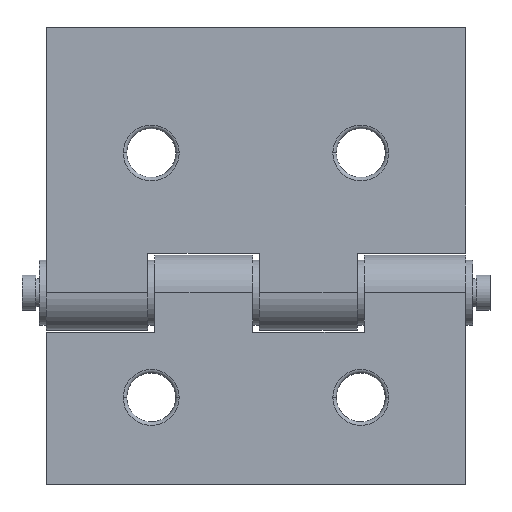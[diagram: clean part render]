
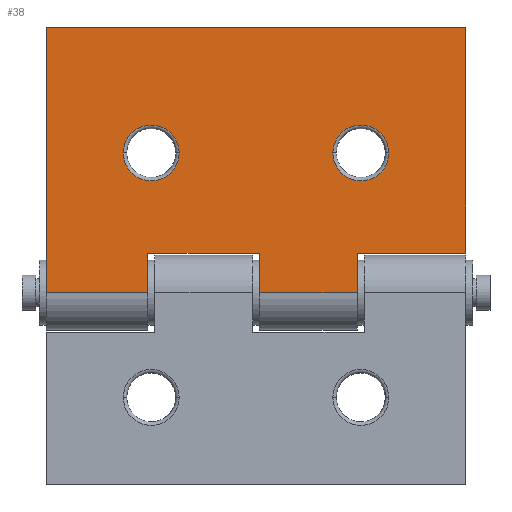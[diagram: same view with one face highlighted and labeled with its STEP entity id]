
A CAD part, left-side view. The second image highlights one B-rep face of the part: STEP entity #38.
In plain terms, the highlighted planar face has unit normal (-1, 0, 0).
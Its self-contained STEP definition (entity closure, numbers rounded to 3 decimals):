
#28 = DIRECTION ( 'NONE',  ( 0., 1., 0. ) ) ;
#38 = ADVANCED_FACE ( 'NONE', ( #576, #2642, #637 ), #82, .F. ) ;
#63 = AXIS2_PLACEMENT_3D ( 'NONE', #557, #2622, #3087 ) ;
#82 = PLANE ( 'NONE',  #2733 ) ;
#118 = LINE ( 'NONE', #613, #1234 ) ;
#163 = EDGE_CURVE ( 'NONE', #454, #3192, #2417, .T. ) ;
#165 = VERTEX_POINT ( 'NONE', #732 ) ;
#186 = CARTESIAN_POINT ( 'NONE',  ( -5.35, 15.5, 5.65 ) ) ;
#229 = LINE ( 'NONE', #2043, #3023 ) ;
#264 = LINE ( 'NONE', #764, #579 ) ;
#301 = DIRECTION ( 'NONE',  ( 1., 0., 0. ) ) ;
#332 = EDGE_LOOP ( 'NONE', ( #1162, #1454 ) ) ;
#346 = VECTOR ( 'NONE', #2125, 1000. ) ;
#448 = EDGE_CURVE ( 'NONE', #1855, #1487, #1613, .T. ) ;
#451 = CARTESIAN_POINT ( 'NONE',  ( -5.35, -14.5, 5.65 ) ) ;
#454 = VERTEX_POINT ( 'NONE', #2664 ) ;
#475 = DIRECTION ( 'NONE',  ( 0., 0., -1. ) ) ;
#486 = CIRCLE ( 'NONE', #1909, 4. ) ;
#527 = VECTOR ( 'NONE', #2888, 1000. ) ;
#547 = EDGE_CURVE ( 'NONE', #165, #1748, #2810, .T. ) ;
#557 = CARTESIAN_POINT ( 'NONE',  ( -5.35, -15., 20. ) ) ;
#576 = FACE_BOUND ( 'NONE', #1786, .T. ) ;
#579 = VECTOR ( 'NONE', #1282, 1000. ) ;
#613 = CARTESIAN_POINT ( 'NONE',  ( -5.35, 30., 0. ) ) ;
#636 = VERTEX_POINT ( 'NONE', #820 ) ;
#637 = FACE_OUTER_BOUND ( 'NONE', #907, .T. ) ;
#648 = EDGE_CURVE ( 'NONE', #1973, #636, #2893, .T. ) ;
#659 = CARTESIAN_POINT ( 'NONE',  ( -5.35, 15., 20. ) ) ;
#686 = VERTEX_POINT ( 'NONE', #838 ) ;
#732 = CARTESIAN_POINT ( 'NONE',  ( -5.35, 30., 38. ) ) ;
#764 = CARTESIAN_POINT ( 'NONE',  ( -5.35, -30., 5.65 ) ) ;
#790 = DIRECTION ( 'NONE',  ( 1., 0., 0. ) ) ;
#820 = CARTESIAN_POINT ( 'NONE',  ( -5.35, 19., 20. ) ) ;
#838 = CARTESIAN_POINT ( 'NONE',  ( -5.35, -19., 20. ) ) ;
#851 = EDGE_CURVE ( 'NONE', #3016, #1855, #1177, .T. ) ;
#855 = ORIENTED_EDGE ( 'NONE', *, *, #448, .T. ) ;
#868 = LINE ( 'NONE', #3138, #527 ) ;
#907 = EDGE_LOOP ( 'NONE', ( #2087, #2874, #855, #3121, #1394, #1639, #1200, #1443, #2897, #1717 ) ) ;
#1027 = AXIS2_PLACEMENT_3D ( 'NONE', #2592, #301, #1318 ) ;
#1082 = DIRECTION ( 'NONE',  ( 0., 1., 0. ) ) ;
#1090 = CARTESIAN_POINT ( 'NONE',  ( -5.35, -14.5, 0. ) ) ;
#1104 = CARTESIAN_POINT ( 'NONE',  ( -5.35, 30., 38. ) ) ;
#1112 = CARTESIAN_POINT ( 'NONE',  ( -5.35, -0.5, 5.65 ) ) ;
#1162 = ORIENTED_EDGE ( 'NONE', *, *, #1181, .T. ) ;
#1177 = LINE ( 'NONE', #186, #2650 ) ;
#1181 = EDGE_CURVE ( 'NONE', #1626, #686, #2627, .T. ) ;
#1189 = DIRECTION ( 'NONE',  ( 0., 0., 1. ) ) ;
#1195 = VECTOR ( 'NONE', #1925, 1000. ) ;
#1200 = ORIENTED_EDGE ( 'NONE', *, *, #2972, .T. ) ;
#1234 = VECTOR ( 'NONE', #1622, 1000. ) ;
#1282 = DIRECTION ( 'NONE',  ( 0., -1., 0. ) ) ;
#1318 = DIRECTION ( 'NONE',  ( 0., 1., 0. ) ) ;
#1342 = CARTESIAN_POINT ( 'NONE',  ( -5.35, 11., 20. ) ) ;
#1394 = ORIENTED_EDGE ( 'NONE', *, *, #2150, .T. ) ;
#1443 = ORIENTED_EDGE ( 'NONE', *, *, #163, .F. ) ;
#1454 = ORIENTED_EDGE ( 'NONE', *, *, #2717, .T. ) ;
#1487 = VERTEX_POINT ( 'NONE', #3025 ) ;
#1536 = CARTESIAN_POINT ( 'NONE',  ( -5.35, -15., 20. ) ) ;
#1560 = EDGE_CURVE ( 'NONE', #1487, #2163, #868, .T. ) ;
#1613 = LINE ( 'NONE', #1112, #346 ) ;
#1622 = DIRECTION ( 'NONE',  ( 0., -1., 0. ) ) ;
#1626 = VERTEX_POINT ( 'NONE', #2193 ) ;
#1636 = DIRECTION ( 'NONE',  ( 0., 1., 0. ) ) ;
#1639 = ORIENTED_EDGE ( 'NONE', *, *, #1741, .T. ) ;
#1642 = VERTEX_POINT ( 'NONE', #451 ) ;
#1655 = CARTESIAN_POINT ( 'NONE',  ( -5.35, 30., 0. ) ) ;
#1700 = CARTESIAN_POINT ( 'NONE',  ( -5.35, 30., 0. ) ) ;
#1717 = ORIENTED_EDGE ( 'NONE', *, *, #547, .T. ) ;
#1741 = EDGE_CURVE ( 'NONE', #1901, #1642, #2179, .T. ) ;
#1748 = VERTEX_POINT ( 'NONE', #1700 ) ;
#1786 = EDGE_LOOP ( 'NONE', ( #2823, #2415 ) ) ;
#1855 = VERTEX_POINT ( 'NONE', #2259 ) ;
#1879 = DIRECTION ( 'NONE',  ( 1., 0., 0. ) ) ;
#1901 = VERTEX_POINT ( 'NONE', #1090 ) ;
#1909 = AXIS2_PLACEMENT_3D ( 'NONE', #659, #1951, #1636 ) ;
#1925 = DIRECTION ( 'NONE',  ( 0., 0., 1. ) ) ;
#1950 = AXIS2_PLACEMENT_3D ( 'NONE', #1536, #790, #28 ) ;
#1951 = DIRECTION ( 'NONE',  ( 1., 0., 0. ) ) ;
#1965 = CARTESIAN_POINT ( 'NONE',  ( -5.35, -0.5, 0. ) ) ;
#1973 = VERTEX_POINT ( 'NONE', #1342 ) ;
#1990 = CARTESIAN_POINT ( 'NONE',  ( -5.35, -30., 38. ) ) ;
#1995 = VECTOR ( 'NONE', #475, 1000. ) ;
#2043 = CARTESIAN_POINT ( 'NONE',  ( -5.35, 30., 38. ) ) ;
#2087 = ORIENTED_EDGE ( 'NONE', *, *, #2864, .T. ) ;
#2125 = DIRECTION ( 'NONE',  ( 0., -1., 0. ) ) ;
#2150 = EDGE_CURVE ( 'NONE', #2163, #1901, #118, .T. ) ;
#2163 = VERTEX_POINT ( 'NONE', #1965 ) ;
#2179 = LINE ( 'NONE', #3193, #1195 ) ;
#2193 = CARTESIAN_POINT ( 'NONE',  ( -5.35, -11., 20. ) ) ;
#2202 = CARTESIAN_POINT ( 'NONE',  ( -5.35, -30., 5.65 ) ) ;
#2240 = DIRECTION ( 'NONE',  ( 0., -1., 0. ) ) ;
#2259 = CARTESIAN_POINT ( 'NONE',  ( -5.35, 15.5, 5.65 ) ) ;
#2279 = DIRECTION ( 'NONE',  ( 0., 0., -1. ) ) ;
#2379 = VECTOR ( 'NONE', #2710, 1000. ) ;
#2415 = ORIENTED_EDGE ( 'NONE', *, *, #648, .T. ) ;
#2417 = LINE ( 'NONE', #1990, #2552 ) ;
#2473 = LINE ( 'NONE', #1655, #2379 ) ;
#2552 = VECTOR ( 'NONE', #2279, 1000. ) ;
#2592 = CARTESIAN_POINT ( 'NONE',  ( -5.35, 15., 20. ) ) ;
#2622 = DIRECTION ( 'NONE',  ( 1., 0., 0. ) ) ;
#2627 = CIRCLE ( 'NONE', #63, 4. ) ;
#2642 = FACE_BOUND ( 'NONE', #332, .T. ) ;
#2650 = VECTOR ( 'NONE', #1189, 1000. ) ;
#2664 = CARTESIAN_POINT ( 'NONE',  ( -5.35, -30., 38. ) ) ;
#2710 = DIRECTION ( 'NONE',  ( 0., -1., 0. ) ) ;
#2717 = EDGE_CURVE ( 'NONE', #686, #1626, #2816, .T. ) ;
#2733 = AXIS2_PLACEMENT_3D ( 'NONE', #1104, #1879, #1082 ) ;
#2810 = LINE ( 'NONE', #3264, #1995 ) ;
#2816 = CIRCLE ( 'NONE', #1950, 4. ) ;
#2823 = ORIENTED_EDGE ( 'NONE', *, *, #3176, .T. ) ;
#2864 = EDGE_CURVE ( 'NONE', #1748, #3016, #2473, .T. ) ;
#2874 = ORIENTED_EDGE ( 'NONE', *, *, #851, .T. ) ;
#2888 = DIRECTION ( 'NONE',  ( 0., 0., -1. ) ) ;
#2893 = CIRCLE ( 'NONE', #1027, 4. ) ;
#2897 = ORIENTED_EDGE ( 'NONE', *, *, #3000, .F. ) ;
#2972 = EDGE_CURVE ( 'NONE', #1642, #3192, #264, .T. ) ;
#3000 = EDGE_CURVE ( 'NONE', #165, #454, #229, .T. ) ;
#3016 = VERTEX_POINT ( 'NONE', #3062 ) ;
#3023 = VECTOR ( 'NONE', #2240, 1000. ) ;
#3025 = CARTESIAN_POINT ( 'NONE',  ( -5.35, -0.5, 5.65 ) ) ;
#3062 = CARTESIAN_POINT ( 'NONE',  ( -5.35, 15.5, 0. ) ) ;
#3087 = DIRECTION ( 'NONE',  ( 0., 1., 0. ) ) ;
#3121 = ORIENTED_EDGE ( 'NONE', *, *, #1560, .T. ) ;
#3138 = CARTESIAN_POINT ( 'NONE',  ( -5.35, -0.5, 5.65 ) ) ;
#3176 = EDGE_CURVE ( 'NONE', #636, #1973, #486, .T. ) ;
#3192 = VERTEX_POINT ( 'NONE', #2202 ) ;
#3193 = CARTESIAN_POINT ( 'NONE',  ( -5.35, -14.5, -5.35 ) ) ;
#3264 = CARTESIAN_POINT ( 'NONE',  ( -5.35, 30., 38. ) ) ;
